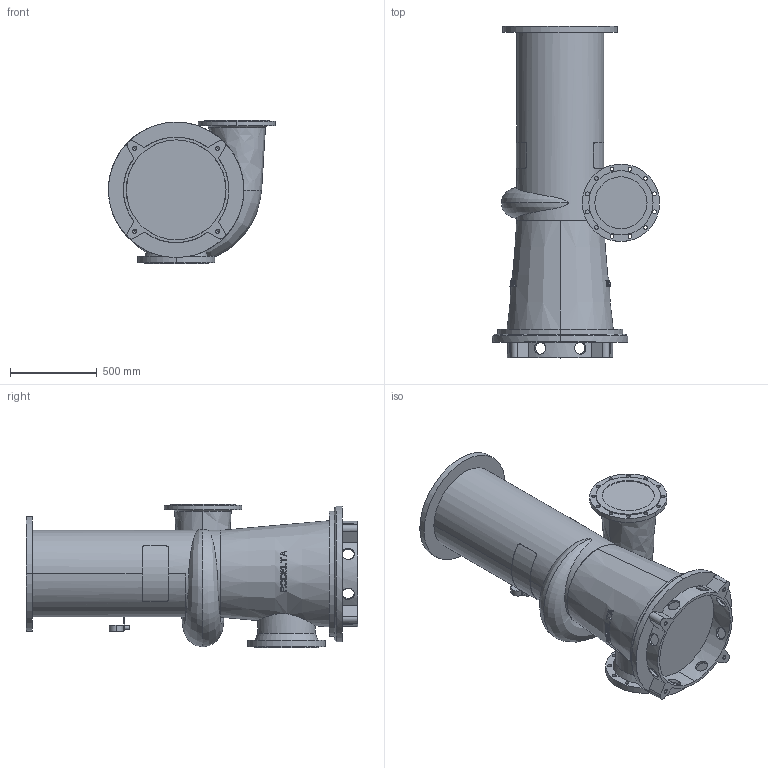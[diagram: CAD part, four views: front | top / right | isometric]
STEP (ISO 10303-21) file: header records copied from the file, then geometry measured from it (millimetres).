
FILE_DESCRIPTION((''),'2;1');
FILE_NAME('12-510_ASM','2024-08-05T',('Lyritlocal'),(''),'PRO/ENGINEER BY PARAMETRIC TECHNOLOGY CORPORATION, 2016360','PRO/ENGINEER BY PARAMETRIC TECHNOLOGY CORPORATION, 2016360','');
FILE_SCHEMA(('CONFIG_CONTROL_DESIGN'));
Length unit declared in the file: millimetre
Products named in the file (3): 12-510; 12-510_VOET; 12-510_ASM
Assembly tree (2 placements, depth 2):
  12-510_ASM
    12-510
    12-510_VOET
Bounding box: 962.5 x 1910 x 825 mm (x, y, z)
Volume: 485964673.1 mm3; surface area: 6451901.8 mm2
Topology: 2 solids, 6 shells, 503 faces, 1366 edges, 900 vertices
Faces by surface type: plane 323, cylinder 138, cone 36, bspline 6
Entity records: 18234 total; most frequent: CARTESIAN_POINT 5945, ORIENTED_EDGE 2700, DIRECTION 2279, EDGE_CURVE 1358, VERTEX_POINT 900, AXIS2_PLACEMENT_3D 896, EDGE_LOOP 608, FACE_OUTER_BOUND 503
